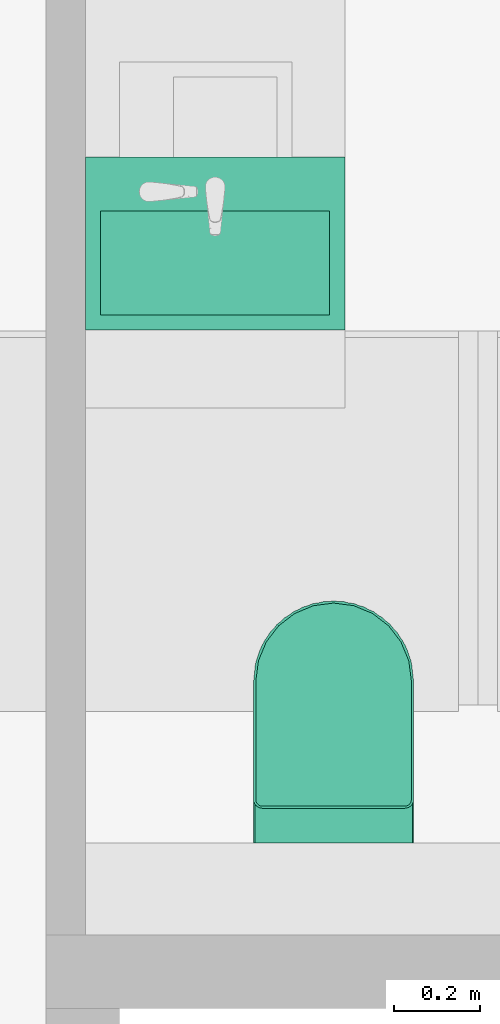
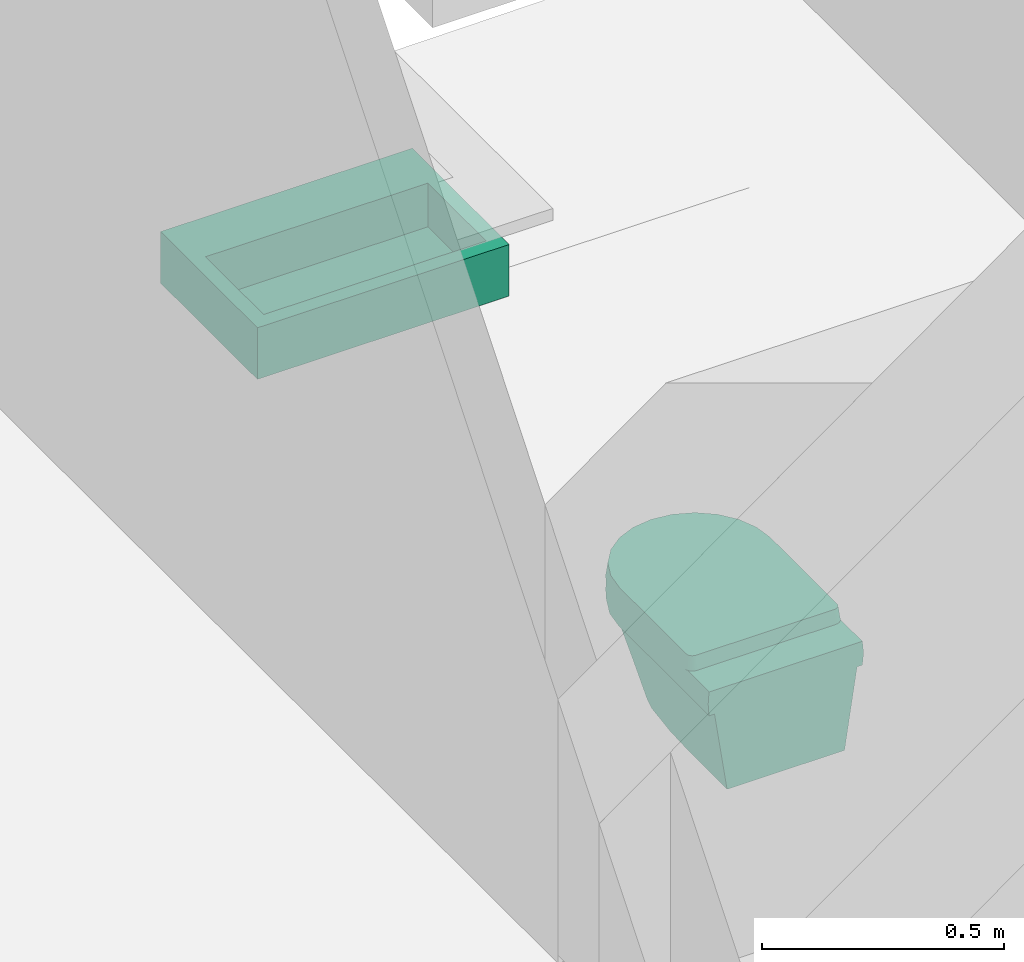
# One storey, part 25 of 57: 2 flow terminals.
"""IFC2X3 building model written with IfcOpenShell, lengths in millimetres."""

from ifc_helpers import new_model, entity, si_unit, converted_unit, direction, frame, origin, place, context, subcontext, project, spatial, faceted_brep, source, transform, mapped, material, type_object, type_shapes, element, save


model = new_model("IFC2X3")

# Units and contexts
model_context = context("Model", 3, precision=0.01, world=origin(), true_north=direction((6.123233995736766e-17, 1.0)))
plan_context = context("Plan", 3, precision=0.01, world=origin(), true_north=direction((6.123233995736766e-17, 1.0)))
body_context = subcontext(model_context, "Body", "Model", "MODEL_VIEW")
ifc_project = project(units=[si_unit("LENGTHUNIT", "METRE", prefix="MILLI"), converted_unit("PLANEANGLEUNIT", "DEGREE", entity("IfcPlaneAngleMeasure", 0.017453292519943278), si_unit("PLANEANGLEUNIT", "RADIAN"), dimensions=[0, 0, 0, 0, 0, 0, 0]), si_unit("AREAUNIT", "SQUARE_METRE")], contexts=[model_context, plan_context])

# Site, building, storey, space
site_placement = place(None, origin())
site = spatial("IfcSite", under=ifc_project, at=site_placement, Name="Default", CompositionType="ELEMENT")
building_placement = place(site_placement, origin())
building = spatial("IfcBuilding", under=site, at=building_placement, CompositionType="ELEMENT")
storey_placement = place(building_placement, frame((0.0, 0.0, 12811.000000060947)))
storey = spatial("IfcBuildingStorey", under=building, at=storey_placement, Name="5K", CompositionType="ELEMENT", Elevation=12811.000000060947)
space_placement = place(storey_placement, origin())
space = spatial("IfcSpace", under=storey, at=space_placement, Name="5-12.11", CompositionType="ELEMENT", InteriorOrExteriorSpace="INTERNAL")

# Flow terminals
ifc_material = material(Name="<Unnamed>")
distribution_element_type_1 = type_object("IfcDistributionElementType", Name="HR_Plumbing-fixtures_Toilet_Generic_v3:Default", material=ifc_material)
shared_shape_1 = source(origin(), body_context, "Body", "Brep", [
    faceted_brep([(185.0, 375.0, -3940.0), (185.0, 100.0, -3940.0), (184.31851652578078, 94.82361909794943, -3940.0), (182.32050807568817, 90.0, -3940.0), (179.14213562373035, 85.85786437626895, -3940.0), (175.0, 82.67949192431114, -3940.0), (170.17638090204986, 80.68148347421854, -3940.0), (165.0, 80.0, -3940.0), (-165.0, 80.0, -3940.0), (-170.17638090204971, 80.68148347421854, -3940.0), (-175.0, 82.67949192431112, -3940.0), (-179.14213562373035, 85.85786437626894, -3940.0), (-182.32050807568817, 90.0, -3940.0), (-184.31851652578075, 94.82361909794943, -3940.0), (-185.0, 100.0, -3940.0), (-185.0, 375.0, -3940.0), (-178.6962778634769, 422.8815233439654, -3940.0), (-160.21469970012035, 467.49999999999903, -3940.0), (-130.81475451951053, 505.81475451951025, -3940.0), (-92.4999999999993, 535.21469970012, -3940.0), (-47.8815233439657, 553.6962778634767, -3940.0), (0.0, 560.0, -3940.0), (47.88152334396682, 553.6962778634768, -3940.0), (92.50000000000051, 535.2146997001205, -3940.0), (130.81475451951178, 505.8147545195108, -3940.0), (160.2146997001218, 467.4999999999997, -3940.0), (178.69627786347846, 422.8815233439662, -3940.0), (165.0, 85.0, -3905.0), (168.88228567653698, 85.51111260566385, -3905.0), (172.4999999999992, 87.00961894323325, -3905.0), (175.60660171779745, 89.39339828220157, -3905.0), (177.99038105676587, 92.49999999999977, -3905.0), (179.48888739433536, 96.11771432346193, -3905.0), (180.0, 100.0, -3905.0), (180.0, 375.0, -3905.0), (173.86664873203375, 421.5874281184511, -3905.0), (155.88457268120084, 465.0, -3905.0), (127.27922061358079, 502.27922061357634, -3905.0), (90.0, 530.884572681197, -3905.0), (46.58742811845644, 548.8666487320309, -3905.0), (0.0, 555.0, -3905.0), (-46.58742811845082, 548.8666487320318, -3905.0), (-90.0, 530.8845726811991, -3905.0), (-127.27922061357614, 502.2792206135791, -3905.0), (-155.88457268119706, 465.0, -3905.0), (-173.8666487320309, 421.58742811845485, -3905.0), (-180.0, 375.0, -3905.0), (-180.0, 100.0, -3905.0), (-179.4888873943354, 96.11771432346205, -3905.0), (-177.99038105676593, 92.49999999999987, -3905.0), (-175.6066017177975, 89.39339828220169, -3905.0), (-172.49999999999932, 87.00961894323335, -3905.0), (-168.88228567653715, 85.51111260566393, -3905.0), (-165.0, 85.0, -3905.0)], [[[0, 1, 2, 3, 4, 5, 6, 7, 8, 9, 10, 11, 12, 13, 14, 15, 16, 17, 18, 19, 20, 21, 22, 23, 24, 25, 26]], [[27, 28, 29, 30, 31, 32, 33, 34, 35, 36, 37, 38, 39, 40, 41, 42, 43, 44, 45, 46, 47, 48, 49, 50, 51, 52, 53]], [[13, 48, 47, 14]], [[49, 12, 11, 50]], [[48, 13, 12, 49]], [[52, 51, 10, 9]], [[53, 52, 9, 8]], [[10, 51, 50, 11]], [[7, 27, 53, 8]], [[6, 28, 27, 7]], [[29, 5, 4, 30]], [[28, 6, 5, 29]], [[32, 31, 3, 2]], [[33, 32, 2, 1]], [[3, 31, 30, 4]], [[0, 34, 33, 1]], [[34, 0, 26, 35]], [[35, 26, 25, 36]], [[38, 37, 24, 23]], [[24, 37, 36, 25]], [[39, 38, 23, 22]], [[39, 22, 21, 40]], [[20, 41, 40, 21]], [[45, 44, 17, 16]], [[43, 18, 17, 44]], [[45, 16, 15, 46]], [[19, 42, 41, 20]], [[19, 18, 43, 42]], [[47, 46, 15, 14]]]),
    faceted_brep([(158.04963619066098, 466.24999999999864, -4000.0), (176.28146329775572, 422.2344757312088, -4000.0), (182.5000000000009, 375.0, -4000.0), (182.5000000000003, 0.0, -4000.0), (-182.49999999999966, 0.0, -4000.0), (-182.49999999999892, 375.0, -4000.0), (-176.2814632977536, 422.23447573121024, -4000.0), (-158.04963619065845, 466.25, -4000.0), (-129.04698756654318, 504.0469875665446, -4000.0), (-91.2499999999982, 533.0496361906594, -4000.0), (-47.23447573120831, 551.281463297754, -4000.0), (0.0, 557.4999999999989, -4000.0), (47.23447573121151, 551.2814632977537, -4000.0), (91.25000000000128, 533.0496361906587, -4000.0), (129.04698756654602, 504.0469875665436, -4000.0), (-176.28146329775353, 422.23447573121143, -3940.0), (-182.49999999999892, 375.0, -3940.0), (-182.49999999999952, 0.0, -3940.0), (182.50000000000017, 0.0, -3940.0), (182.50000000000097, 375.0, -3940.0), (176.2814632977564, 422.23447573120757, -3940.0), (158.04963619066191, 466.24999999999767, -3940.0), (129.04698756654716, 504.04698756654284, -3940.0), (91.25000000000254, 533.0496361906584, -3940.0), (47.23447573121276, 551.2814632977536, -3940.0), (0.0, 557.4999999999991, -3940.0), (-47.23447573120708, 551.2814632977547, -3940.0), (-91.24999999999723, 533.0496361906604, -3940.0), (-129.04698756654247, 504.0469875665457, -3940.0), (-158.0496361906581, 466.25000000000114, -3940.0), (184.3739186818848, 0.0, -3985.051993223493), (185.0, 0.0, -3970.0), (184.37391868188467, 0.0, -3954.9480067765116), (-184.37391868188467, 0.0, -3954.9480067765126), (-185.0, 0.0, -3970.0), (-184.37391868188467, 0.0, -3985.051993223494), (185.0, 375.0, -3970.0), (184.37391868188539, 375.0, -3954.9480067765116), (184.37391868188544, 375.0, -3985.051993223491), (179.22193525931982, 420.2391964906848, -3962.467496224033), (146.12425609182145, 487.1250848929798, -3987.162723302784), (112.36452390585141, 521.4362980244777, -3982.347722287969), (-24.092382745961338, 557.9998161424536, -3957.652277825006), (-70.79643453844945, 545.9177137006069, -3969.999999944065), (165.88140661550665, 456.6493815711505, -3963.605381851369), (170.61476036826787, 445.67094705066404, -3980.89777177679), (146.7703673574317, 487.6208651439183, -3969.999999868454), (112.4934291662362, 521.6042920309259, -3961.29138681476), (70.79643457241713, 545.9177136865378, -3969.9999999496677), (-170.6147602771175, 445.67094700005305, -3980.8977734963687), (-146.12425609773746, 487.12508488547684, -3987.1627233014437), (70.4847752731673, 545.1653000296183, -3987.16272333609), (24.092382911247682, 557.9998161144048, -3982.3477222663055), (-146.77036734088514, 487.62086516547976, -3969.999999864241), (-165.88140640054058, 456.6493822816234, -3963.605385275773), (24.120021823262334, 558.2097557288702, -3961.2913867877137), (-24.120022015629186, 558.20975569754, -3978.7086133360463), (180.8695297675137, 411.23491834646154, -3983.9362692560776), (-112.36452329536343, 521.4362985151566, -3957.652277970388), (-112.4934298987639, 521.6042914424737, -3978.708613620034), (-70.48477528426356, 545.1653000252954, -3987.1627233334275), (-184.3739188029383, 375.0, -3954.948008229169), (-179.2219343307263, 420.239200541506, -3962.4674984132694), (-185.0, 375.0, -3970.0000029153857), (-184.3739185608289, 375.0, -3985.0519946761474), (-181.40133300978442, 410.0856400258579, -3979.2616608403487)], [[[0, 1, 2, 3, 4, 5, 6, 7, 8, 9, 10, 11, 12, 13, 14]], [[15, 16, 17, 18, 19, 20, 21, 22, 23, 24, 25, 26, 27, 28, 29]], [[4, 3, 30, 31, 32, 18, 17, 33, 34, 35]], [[32, 31, 36, 37]], [[32, 37, 19, 18]], [[30, 3, 2, 38]], [[30, 38, 36, 31]], [[37, 39, 20]], [[40, 14, 41]], [[20, 19, 37]], [[26, 42, 43]], [[44, 45, 46]], [[47, 41, 48]], [[48, 24, 23]], [[7, 49, 50]], [[47, 22, 46]], [[51, 12, 52]], [[21, 46, 22]], [[53, 49, 54]], [[55, 52, 56]], [[48, 52, 55]], [[36, 57, 39]], [[28, 58, 53]], [[11, 10, 56]], [[57, 38, 2]], [[37, 36, 39]], [[59, 58, 43]], [[7, 6, 49]], [[14, 13, 41]], [[12, 51, 13]], [[45, 57, 1]], [[14, 40, 0]], [[45, 1, 0]], [[47, 46, 41]], [[39, 57, 45]], [[24, 48, 55]], [[56, 42, 55]], [[26, 43, 27]], [[39, 45, 44]], [[58, 28, 27]], [[9, 59, 60]], [[27, 43, 58]], [[28, 53, 29]], [[61, 16, 15]], [[11, 56, 52]], [[61, 62, 63]], [[47, 48, 23]], [[41, 51, 48]], [[15, 54, 62]], [[42, 25, 55]], [[62, 61, 15]], [[64, 63, 65]], [[56, 60, 43]], [[55, 25, 24]], [[50, 53, 59]], [[60, 10, 9]], [[47, 23, 22]], [[62, 49, 65]], [[7, 50, 8]], [[49, 62, 54]], [[64, 6, 5]], [[42, 26, 25]], [[58, 59, 53]], [[49, 6, 65]], [[44, 21, 20]], [[11, 52, 12]], [[42, 56, 43]], [[46, 45, 40]], [[59, 9, 8]], [[39, 44, 20]], [[44, 46, 21]], [[54, 29, 53]], [[29, 54, 15]], [[13, 51, 41]], [[48, 51, 52]], [[0, 40, 45]], [[46, 40, 41]], [[10, 60, 56]], [[43, 60, 59]], [[8, 50, 59]], [[53, 50, 49]], [[1, 57, 2]], [[36, 38, 57]], [[62, 65, 63]], [[64, 65, 6]], [[16, 61, 33]], [[16, 33, 17]], [[33, 61, 34]], [[61, 63, 34]], [[64, 5, 4]], [[64, 35, 63]], [[35, 64, 4]], [[63, 35, 34]]]),
    faceted_brep([(85.0, 522.224318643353, -4000.0), (43.99923766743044, 539.2073904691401, -4000.0), (0.0, 545.0, -4000.0), (-43.99923766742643, 539.2073904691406, -4000.0), (-85.0, 522.2243186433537, -4000.0), (-120.20815280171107, 495.2081528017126, -4000.0), (-147.22431864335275, 460.0, -4000.0), (-164.20739046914, 418.9992376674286, -4000.0), (-170.0, 375.0, -4000.0), (-170.0, 0.0, -4000.0), (170.0, 0.0, -4000.0), (170.0, 375.0, -4000.0), (164.2073904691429, 418.99923766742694, -4000.0), (147.224318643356, 460.0, -4000.0), (120.20815280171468, 495.20815280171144, -4000.0), (140.0, 0.0, -4200.0), (-140.0, 0.0, -4200.0), (-140.0, 150.0, -4200.0), (-138.62980634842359, 195.25787346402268, -4200.0), (-137.25961308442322, 240.51573412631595, -4200.0), (-133.15405183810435, 285.6078202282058, -4200.0), (-129.04849039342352, 330.69990850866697, -4200.0), (-121.54313718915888, 361.12229181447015, -4200.0), (-106.97640292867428, 388.86507440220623, -4200.0), (-86.1945818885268, 412.3164634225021, -4200.0), (-60.40505081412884, 430.11398627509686, -4200.0), (-31.106123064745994, 441.2236471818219, -4200.0), (0.0, 445.0, -4200.0), (31.106123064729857, 441.2236471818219, -4200.0), (60.40505081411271, 430.1139862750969, -4200.0), (86.19458188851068, 412.3164634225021, -4200.0), (106.97640292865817, 388.86507440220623, -4200.0), (121.54313718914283, 361.12229181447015, -4200.0), (129.04849039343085, 330.69990850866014, -4200.0), (133.15405231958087, 285.60781494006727, -4200.0), (137.25961308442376, 240.51573412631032, -4200.0), (138.629806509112, 195.25786815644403, -4200.0), (140.0, 150.0, -4200.0), (150.60660238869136, 229.54951791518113, -4129.289317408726), (160.30330119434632, 302.2747589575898, -4064.6446587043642), (155.52145288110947, 359.3375502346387, -4070.710688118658), (143.52703751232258, 346.36235827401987, -4129.289311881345), (155.38792293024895, 359.1931016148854, -4071.362825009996), (136.07910358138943, 407.7451780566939, -4100.000018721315), (144.4628484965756, 378.65444268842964, -4105.413468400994), (88.6637225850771, 465.93257853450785, -4100.000001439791), (116.08235687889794, 439.8543237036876, -4100.000003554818), (-146.76963007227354, 381.58655237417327, -4094.5865394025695), (-136.0791098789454, 407.7451788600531, -4100.000000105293), (-143.66056550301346, 346.5068047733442, -4128.637184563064), (-156.76351819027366, 360.6811785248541, -4064.644658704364), (55.573859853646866, 484.30716171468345, -4100.000000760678), (18.928354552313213, 493.79904274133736, -4099.999999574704), (-55.573860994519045, 484.3071615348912, -4100.00000022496), (-18.928355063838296, 493.79904230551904, -4100.000000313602), (-143.52703638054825, 346.36235704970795, -4129.289317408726), (-88.66372427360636, 465.9325779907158, -4100.000000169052), (-116.08235986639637, 439.8543221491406, -4100.000000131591), (-159.3933967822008, 295.45047586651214, -4070.7106881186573), (-150.6066032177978, 229.54952413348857, -4129.2893118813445)], [[[0, 1, 2, 3, 4, 5, 6, 7, 8, 9, 10, 11, 12, 13, 14]], [[15, 16, 17, 18, 19, 20, 21, 22, 23, 24, 25, 26, 27, 28, 29, 30, 31, 32, 33, 34, 35, 36, 37]], [[10, 15, 37, 38, 39, 11]], [[36, 35, 39, 38, 37]], [[39, 40, 11]], [[35, 40, 39]], [[34, 33, 41, 42, 40, 35]], [[13, 12, 43]], [[32, 44, 33]], [[32, 31, 43]], [[44, 12, 42]], [[45, 30, 29]], [[45, 46, 30]], [[22, 47, 48]], [[30, 46, 31]], [[47, 49, 50, 8]], [[28, 51, 29]], [[46, 43, 31]], [[43, 44, 32]], [[12, 11, 40, 42]], [[51, 45, 29]], [[14, 45, 0]], [[13, 43, 46]], [[28, 27, 52]], [[14, 46, 45]], [[45, 51, 0]], [[0, 51, 1]], [[1, 51, 52]], [[52, 51, 28]], [[52, 2, 1]], [[13, 46, 14]], [[53, 26, 25]], [[2, 54, 3]], [[22, 21, 55, 49]], [[24, 56, 25]], [[48, 23, 22]], [[5, 57, 6]], [[48, 57, 23]], [[24, 23, 57]], [[47, 7, 48]], [[8, 7, 47]], [[26, 54, 27]], [[3, 54, 53]], [[56, 53, 25]], [[2, 52, 54]], [[57, 56, 24]], [[4, 53, 56]], [[22, 49, 47]], [[5, 56, 57]], [[57, 48, 6]], [[4, 56, 5]], [[53, 54, 26]], [[3, 53, 4]], [[6, 48, 7]], [[12, 44, 43]], [[44, 42, 41, 33]], [[54, 52, 27]], [[20, 19, 50, 49, 55, 21]], [[50, 58, 8]], [[19, 58, 50]], [[18, 17, 59, 58, 19]], [[9, 8, 58, 59, 17, 16]], [[9, 16, 15, 10]]]),
])
type_shapes(distribution_element_type_1, [shared_shape_1])
flow_terminal_1_placement = place(space_placement, frame((3846.0, 12593.0, 4305.0)))
element("IfcFlowTerminal", 1, at=flow_terminal_1_placement, inside=space, type_object=distribution_element_type_1, material=ifc_material, Name="HR_Plumbing-fixtures_Toilet_Generic_v3:Default", ObjectType="HR_Plumbing-fixtures_Toilet_Generic_v3:Default", context=body_context, shape_type="MappedRepresentation", body=[
    mapped(shared_shape_1, transform((0.0, 0.0, 0.0), scale=1.0)),
])
distribution_element_type_2 = type_object("IfcDistributionElementType", Name="HR_Plumbing-fixtures_Sink_Generic_Bathroom_v1:600 x 400 mm", material=ifc_material)
shared_shape_2 = source(origin(), body_context, "Body", "Brep", [
    faceted_brep([(300.0, 0.0, -3325.0), (-300.0, 0.0, -3325.0), (-300.0, -400.0, -3325.0), (300.0, -400.0, -3325.0), (-265.0, -125.0, -3325.0), (265.0, -125.0, -3325.0), (265.0, -365.0, -3325.0), (-265.0, -365.0, -3325.0), (300.0, 0.0, -3455.0), (300.0, -400.0, -3455.0), (-300.0, -400.0, -3455.0), (-300.0, 0.0, -3455.0), (265.0, -125.0, -3435.0), (-265.0, -125.0, -3435.0), (-265.0, -365.0, -3435.0), (265.0, -365.0, -3435.0)], [[[0, 1, 2, 3], [4, 5, 6, 7]], [[8, 9, 10, 11]], [[1, 0, 8, 11]], [[2, 1, 11, 10]], [[3, 2, 10, 9]], [[0, 3, 9, 8]], [[12, 13, 14, 15]], [[13, 12, 5, 4]], [[14, 13, 4, 7]], [[15, 14, 7, 6]], [[12, 15, 6, 5]]]),
])
type_shapes(distribution_element_type_2, [shared_shape_2])
flow_terminal_2_placement = place(space_placement, frame((3572.0, 14180.0, 4025.0)))
element("IfcFlowTerminal", 2, at=flow_terminal_2_placement, inside=space, type_object=distribution_element_type_2, material=ifc_material, Name="HR_Plumbing-fixtures_Sink_Generic_Bathroom_v1:600 x 400 mm", ObjectType="HR_Plumbing-fixtures_Sink_Generic_Bathroom_v1:600 x 400 mm", context=body_context, shape_type="MappedRepresentation", body=[
    mapped(shared_shape_2, transform((0.0, 0.0, 0.0), scale=1.0)),
])

save(model, "model.ifc")
